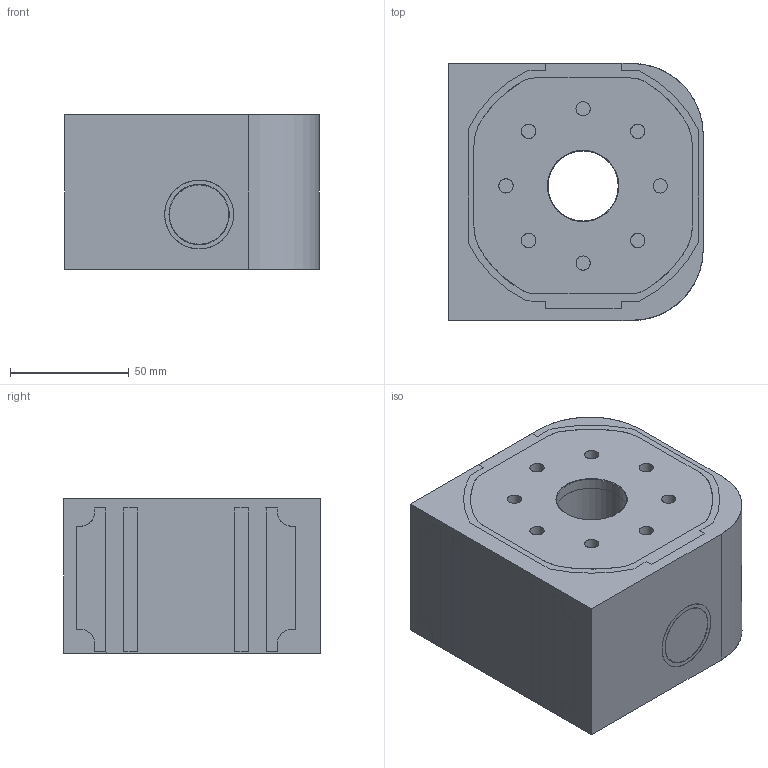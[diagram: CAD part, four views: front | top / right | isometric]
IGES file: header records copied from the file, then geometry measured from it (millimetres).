
Global section: file name: 203HD:\2019年---五轴大赛样题\2---2019五轴大赛样题 - 避免混乱\0---样题 - （修改）\2019五轴大赛样题\样题－2019年“精雕杯”五轴数控加工技能大赛（9.11）待审\附件1\IGS（样题）\工件及毛坯（样题）\工件3（样题）.igs; native system: NX V10.0; preprocessor: SIEMENS PLM Software NX 10.0; date: 20190912.085118; units: millimetre
Bounding box: 107.2 x 108.2 x 65 mm (x, y, z)
Surface area: 121827 mm2 (no closed solid volume)
Topology: 0 solids, 0 shells, 213 faces, 2604 edges, 2562 vertices
Faces by surface type: bspline 131, revolution 82
